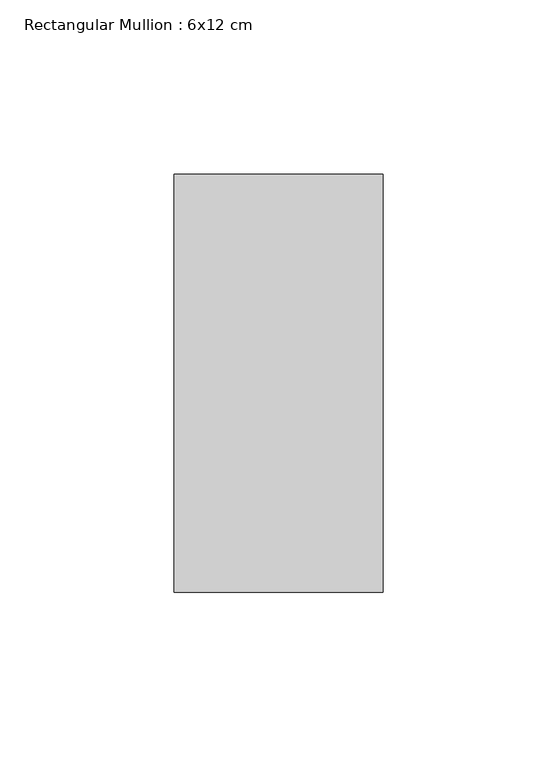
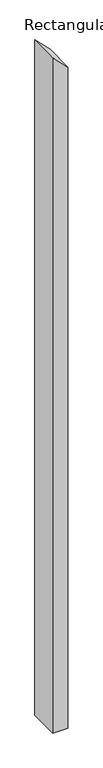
"""IFC4 building model written with IfcOpenShell, lengths in millimetres: member geometry, Rectangular Mullion : 6x12 cm."""

from ifc_helpers import new_model, si_unit, frame, origin, place, context, project, spatial, polyline, outline, extrude, source, transform, mapped, element, save


def rectangular_mullion_6x12_cm_cec782ef(model_context):
    return source(origin(), model_context, "Body", "SweptSolid", [
        extrude(outline(polyline([(-114.7535627, 30.0), (-54.8358015, -30.0), (-2845.6942065, -30.0), (-2845.6942065, 30.0), (-114.7535627, 30.0)])), frame((0.0, 85.0, 0.0), z_axis=(0.0, 1.0, 0.0), x_axis=(0.0, 0.0, 1.0)), (0.0, 0.0, 1.0), 120.0),
    ])


if __name__ == "__main__":
    model = new_model("IFC4")
    model_context = context("Model", 3, world=origin())
    ifc_project = project(units=[si_unit("LENGTHUNIT", "METRE", prefix="MILLI")], contexts=[model_context])
    site = spatial("IfcSite", under=ifc_project)
    building = spatial("IfcBuilding", under=site)
    placement = place(None, origin())
    rectangular_mullion_6x12_cm_shape = rectangular_mullion_6x12_cm_cec782ef(model_context)
    element("IfcMember", 1, ObjectType="Rectangular Mullion : 6x12 cm", at=placement, inside=building, context=model_context, shape_type="MappedRepresentation", body=[
        mapped(rectangular_mullion_6x12_cm_shape, transform((0.0, 0.0, 0.0), x_axis=(1.0, 0.0, 0.0), y_axis=(0.0, 1.0, 0.0), z_axis=(0.0, 0.0, 1.0))),
    ])
    save(model, "model.ifc")
